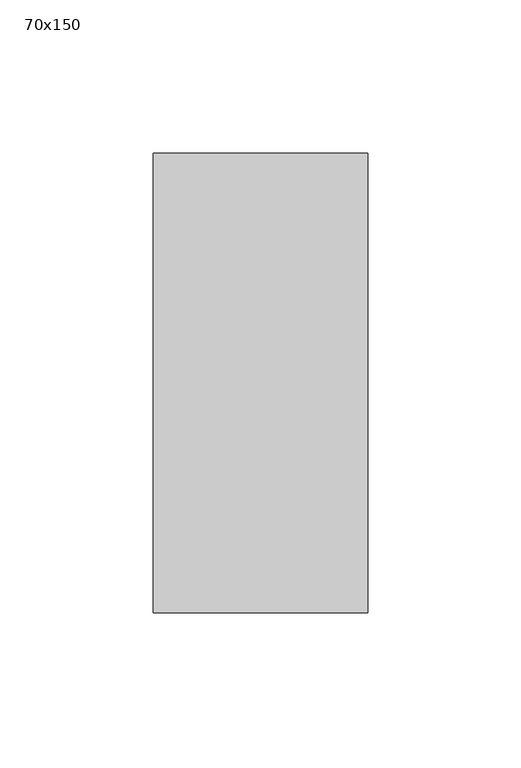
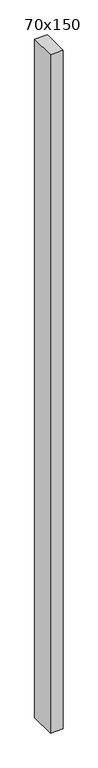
"""IFC4 building model written with IfcOpenShell, lengths in millimetres: member geometry, 長方形のマリオン : 70x150."""

from ifc_helpers import new_model, si_unit, frame, origin, place, context, project, spatial, polyline, outline, extrude, source, transform, mapped, element, save


def member_70x150_6224b0b0(model_context):
    return source(origin(), model_context, "Body", "SweptSolid", [
        extrude(outline(polyline([(35.0, 75.0), (35.0, -75.0), (-35.0, -75.0), (-35.0, 75.0), (35.0, 75.0)])), frame((0.0, 0.0, -3975.0), z_axis=(0.0, 0.0, 1.0), x_axis=(1.0, 0.0, 0.0)), (0.0, 0.0, 1.0), 3975.0),
    ])


if __name__ == "__main__":
    model = new_model("IFC4")
    model_context = context("Model", 3, world=origin())
    ifc_project = project(units=[si_unit("LENGTHUNIT", "METRE", prefix="MILLI")], contexts=[model_context])
    site = spatial("IfcSite", under=ifc_project)
    building = spatial("IfcBuilding", under=site)
    placement = place(None, origin())
    member_70x150_shape = member_70x150_6224b0b0(model_context)
    element("IfcMember", 1, ObjectType="長方形のマリオン : 70x150", at=placement, inside=building, context=model_context, shape_type="MappedRepresentation", body=[
        mapped(member_70x150_shape, transform((0.0, 0.0, 0.0), x_axis=(1.0, 0.0, 0.0), y_axis=(0.0, 1.0, 0.0), z_axis=(0.0, 0.0, 1.0))),
    ])
    save(model, "model.ifc")
